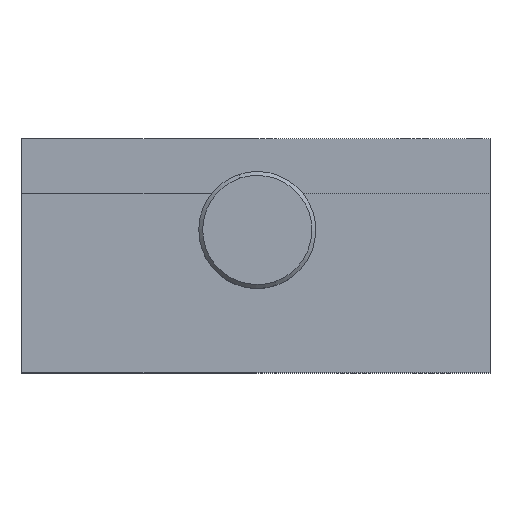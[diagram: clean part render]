
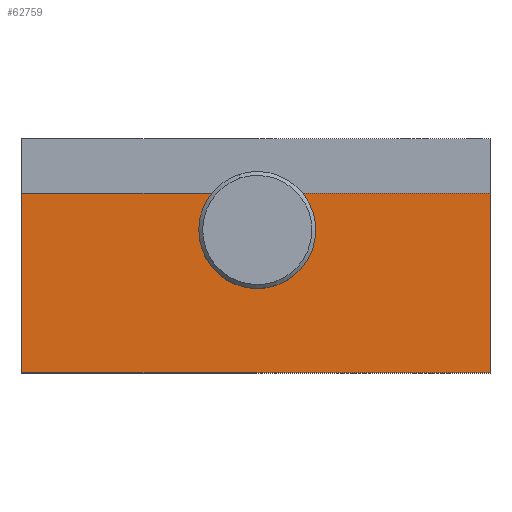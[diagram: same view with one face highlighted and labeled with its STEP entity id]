
A CAD part, top view. The second image highlights one B-rep face of the part: STEP entity #62759.
In plain terms, the highlighted planar face has unit normal (0, 0, 1).
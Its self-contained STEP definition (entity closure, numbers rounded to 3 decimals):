
#2213 = VECTOR ( 'NONE', #26047, 1000. ) ;
#5076 = CIRCLE ( 'NONE', #17850, 4. ) ;
#8186 = CARTESIAN_POINT ( 'NONE',  ( -30., 0., 0. ) ) ;
#8410 = ORIENTED_EDGE ( 'NONE', *, *, #53658, .T. ) ;
#8712 = AXIS2_PLACEMENT_3D ( 'NONE', #96226, #59162, #89694 ) ;
#10554 = CARTESIAN_POINT ( 'NONE',  ( -30., 0., 0. ) ) ;
#15404 = CIRCLE ( 'NONE', #34533, 4. ) ;
#16580 = LINE ( 'NONE', #17561, #2213 ) ;
#16841 = VERTEX_POINT ( 'NONE', #67069 ) ;
#17561 = CARTESIAN_POINT ( 'NONE',  ( 30., 0., 0. ) ) ;
#17628 = ORIENTED_EDGE ( 'NONE', *, *, #47818, .F. ) ;
#17671 = EDGE_CURVE ( 'NONE', #53134, #17712, #52537, .T. ) ;
#17712 = VERTEX_POINT ( 'NONE', #36545 ) ;
#17850 = AXIS2_PLACEMENT_3D ( 'NONE', #27171, #82175, #96700 ) ;
#26047 = DIRECTION ( 'NONE',  ( 0., 1., 0. ) ) ;
#27171 = CARTESIAN_POINT ( 'NONE',  ( 0., 18., 0. ) ) ;
#29551 = CARTESIAN_POINT ( 'NONE',  ( 0., 18., 0. ) ) ;
#31673 = DIRECTION ( 'NONE',  ( 0., 1., 0. ) ) ;
#31995 = EDGE_LOOP ( 'NONE', ( #8410, #38655, #17628, #67900 ) ) ;
#34533 = AXIS2_PLACEMENT_3D ( 'NONE', #29551, #51571, #96625 ) ;
#35245 = LINE ( 'NONE', #8186, #51544 ) ;
#35960 = VERTEX_POINT ( 'NONE', #40370 ) ;
#36545 = CARTESIAN_POINT ( 'NONE',  ( 30., 23., 0. ) ) ;
#37138 = FACE_OUTER_BOUND ( 'NONE', #31995, .T. ) ;
#37521 = DIRECTION ( 'NONE',  ( 1., 0., 0. ) ) ;
#38655 = ORIENTED_EDGE ( 'NONE', *, *, #17671, .F. ) ;
#39584 = LINE ( 'NONE', #10554, #50202 ) ;
#40370 = CARTESIAN_POINT ( 'NONE',  ( 4., 18., 0. ) ) ;
#40986 = VERTEX_POINT ( 'NONE', #92276 ) ;
#44058 = CARTESIAN_POINT ( 'NONE',  ( -30., 23., 0. ) ) ;
#46366 = VECTOR ( 'NONE', #37521, 1000. ) ;
#47818 = EDGE_CURVE ( 'NONE', #84088, #53134, #35245, .T. ) ;
#50202 = VECTOR ( 'NONE', #79591, 1000. ) ;
#51544 = VECTOR ( 'NONE', #31673, 1000. ) ;
#51571 = DIRECTION ( 'NONE',  ( 0., 0., 1. ) ) ;
#52537 = LINE ( 'NONE', #44058, #46366 ) ;
#53134 = VERTEX_POINT ( 'NONE', #68635 ) ;
#53658 = EDGE_CURVE ( 'NONE', #40986, #17712, #16580, .T. ) ;
#59162 = DIRECTION ( 'NONE',  ( 0., 0., -1. ) ) ;
#59607 = EDGE_CURVE ( 'NONE', #16841, #35960, #5076, .T. ) ;
#60733 = ORIENTED_EDGE ( 'NONE', *, *, #85526, .F. ) ;
#61138 = EDGE_CURVE ( 'NONE', #84088, #40986, #39584, .T. ) ;
#62759 = ADVANCED_FACE ( 'NONE', ( #90184, #37138 ), #97208, .F. ) ;
#64096 = CARTESIAN_POINT ( 'NONE',  ( -30., 0., 0. ) ) ;
#67069 = CARTESIAN_POINT ( 'NONE',  ( -4., 18., 0. ) ) ;
#67900 = ORIENTED_EDGE ( 'NONE', *, *, #61138, .T. ) ;
#68635 = CARTESIAN_POINT ( 'NONE',  ( -30., 23., 0. ) ) ;
#69378 = ORIENTED_EDGE ( 'NONE', *, *, #59607, .F. ) ;
#79591 = DIRECTION ( 'NONE',  ( 1., 0., 0. ) ) ;
#82175 = DIRECTION ( 'NONE',  ( 0., 0., 1. ) ) ;
#83096 = EDGE_LOOP ( 'NONE', ( #60733, #69378 ) ) ;
#84088 = VERTEX_POINT ( 'NONE', #64096 ) ;
#85526 = EDGE_CURVE ( 'NONE', #35960, #16841, #15404, .T. ) ;
#89694 = DIRECTION ( 'NONE',  ( -1., 0., 0. ) ) ;
#90184 = FACE_BOUND ( 'NONE', #83096, .T. ) ;
#92276 = CARTESIAN_POINT ( 'NONE',  ( 30., 0., 0. ) ) ;
#96226 = CARTESIAN_POINT ( 'NONE',  ( -30., 0., 0. ) ) ;
#96625 = DIRECTION ( 'NONE',  ( 1., 0., 0. ) ) ;
#96700 = DIRECTION ( 'NONE',  ( 1., 0., 0. ) ) ;
#97208 = PLANE ( 'NONE',  #8712 ) ;
